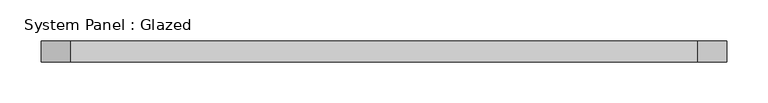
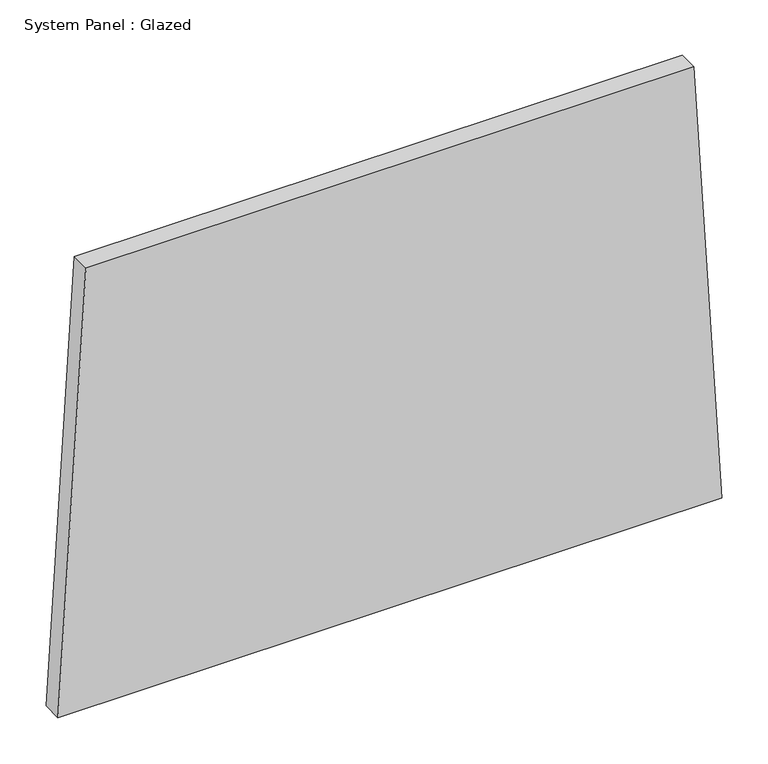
"""IFC4 building model written with IfcOpenShell, lengths in millimetres: plate geometry, System Panel : Glazed."""

import ifcopenshell
import ifcopenshell.guid

model = None  # the IFC model being written
_history = None  # IfcOwnerHistory: only IFC2X3 demands one
_inside = {}  # id of a spatial element -> (the spatial element, [elements in it])
_under = {}  # id of a project, library or spatial element -> (it, [spatial elements below it])
_declared = {}  # id of a project -> (the project, [libraries it declares])
_typed = {}  # id of a type object -> (the type object, [elements of that type])
_made_of = {}  # id of a material, layer set ... -> (it, [elements and type objects made of it])


def new_model(schema):
    """Start an empty IFC model of exactly this schema.

    Asked for "IFC4X3", IfcOpenShell would pick the latest addendum, in which some entities
    have other attributes; the version numbers below select the first issue.
    IFC2X3 requires an IfcOwnerHistory on every rooted entity: one is made here for all.
    """
    global model, _history
    if schema == "IFC4X3":
        model = ifcopenshell.file(schema_version=(4, 3, 0, 0))
    else:
        model = ifcopenshell.file(schema=schema)
    _inside.clear()
    _under.clear()
    _declared.clear()
    _typed.clear()
    _made_of.clear()
    _history = None
    if model.schema == "IFC2X3":
        org = make("IfcOrganization", Name="unknown")
        user = make(
            "IfcPersonAndOrganization",
            ThePerson=make("IfcPerson", FamilyName="unknown"),
            TheOrganization=org,
        )
        app = make(
            "IfcApplication",
            ApplicationDeveloper=org,
            Version="unknown",
            ApplicationFullName="unknown",
            ApplicationIdentifier="unknown",
        )
        _history = make(
            "IfcOwnerHistory",
            OwningUser=user,
            OwningApplication=app,
            ChangeAction="ADDED",
            CreationDate=0,
        )
    return model


def make(cls, **values):
    """One entity of the class cls with the attributes given. An attribute that is None is left unset."""
    return model.create_entity(
        cls, **{name: value for name, value in values.items() if value is not None}
    )


def rooted(cls, **values):
    """An entity with a GlobalId (a new one), such as an element, a storey or a relation."""
    return make(cls, GlobalId=ifcopenshell.guid.new(), OwnerHistory=_history, **values)


def si_unit(unit_type, name, prefix=None):
    """IfcSIUnit, for example si_unit("LENGTHUNIT", "METRE", prefix="MILLI")."""
    return make("IfcSIUnit", UnitType=unit_type, Prefix=prefix, Name=name)


def assignment(units):
    """IfcUnitAssignment: the units of a project."""
    return None if units is None else make("IfcUnitAssignment", Units=units)


def point(xyz):
    """IfcCartesianPoint."""
    return None if xyz is None else make("IfcCartesianPoint", Coordinates=xyz)


def direction(xyz):
    """IfcDirection."""
    return None if xyz is None else make("IfcDirection", DirectionRatios=xyz)


def frame(location, z_axis=None, x_axis=None):
    """IfcAxis2Placement3D, a coordinate frame: its origin and axes. An axis left out is left unset."""
    return make(
        "IfcAxis2Placement3D",
        Location=point(location),
        Axis=direction(z_axis),
        RefDirection=direction(x_axis),
    )


def origin():
    """The frame at (0, 0, 0) with its axes left unset."""
    return frame((0.0, 0.0, 0.0))


def place(relative_to, where):
    """IfcLocalPlacement: puts the frame where relative to a parent placement (None: the world)."""
    return make(
        "IfcLocalPlacement", PlacementRelTo=relative_to, RelativePlacement=where
    )


def context(
    kind, dimensions, precision=None, world=None, true_north=None, identifier=None
):
    """IfcGeometricRepresentationContext, for example the 3D "Model" context."""
    return make(
        "IfcGeometricRepresentationContext",
        ContextIdentifier=identifier,
        ContextType=kind,
        CoordinateSpaceDimension=dimensions,
        Precision=precision,
        WorldCoordinateSystem=world,
        TrueNorth=true_north,
    )


def project(units=None, contexts=None):
    """IfcProject with its units and contexts."""
    return rooted(
        "IfcProject",
        Name="project",
        RepresentationContexts=contexts,
        UnitsInContext=assignment(units),
    )


def spatial(cls, under=None, at=None, **own):
    """A site, building, storey or space (cls), placed at a placement, below another one or the project."""
    s = rooted(cls, ObjectPlacement=at, **own)
    if under is not None:
        _under.setdefault(under.id(), (under, []))[1].append(s)
    return s


def polyline(points):
    """IfcPolyline through the points."""
    return make("IfcPolyline", Points=[point(p) for p in points])


def outline(outer, holes=None, kind="AREA"):
    """IfcArbitraryClosedProfileDef: a profile drawn as a closed curve; with holes, ...WithVoids."""
    if holes is None:
        return make("IfcArbitraryClosedProfileDef", ProfileType=kind, OuterCurve=outer)
    return make(
        "IfcArbitraryProfileDefWithVoids",
        ProfileType=kind,
        OuterCurve=outer,
        InnerCurves=holes,
    )


def extrude(swept, where, along, depth):
    """IfcExtrudedAreaSolid: the profile swept, set in the frame where, extruded along a direction by depth."""
    return make(
        "IfcExtrudedAreaSolid",
        SweptArea=swept,
        Position=where,
        ExtrudedDirection=direction(along),
        Depth=depth,
    )


def shape(context_of_items, identifier, shape_type, items):
    """IfcShapeRepresentation: the items that make up one representation, for example the "Body"."""
    return make(
        "IfcShapeRepresentation",
        ContextOfItems=context_of_items,
        RepresentationIdentifier=identifier,
        RepresentationType=shape_type,
        Items=items,
    )


def source(mapping_origin, context_of_items, identifier, shape_type, items):
    """IfcRepresentationMap: a shape defined once, which mapped items show again and again."""
    return make(
        "IfcRepresentationMap",
        MappingOrigin=mapping_origin,
        MappedRepresentation=shape(context_of_items, identifier, shape_type, items),
    )


def transform(
    local_origin,
    x_axis=None,
    y_axis=None,
    z_axis=None,
    scale=None,
    scale2=None,
    scale3=None,
    uniform=True,
):
    """IfcCartesianTransformationOperator3D, or its non-uniform kind. x_axis, y_axis, z_axis: its Axis1, 2, 3."""
    if uniform:
        return make(
            "IfcCartesianTransformationOperator3D",
            Axis1=direction(x_axis),
            Axis2=direction(y_axis),
            LocalOrigin=point(local_origin),
            Scale=scale,
            Axis3=direction(z_axis),
        )
    return make(
        "IfcCartesianTransformationOperator3DnonUniform",
        Axis1=direction(x_axis),
        Axis2=direction(y_axis),
        LocalOrigin=point(local_origin),
        Scale=scale,
        Axis3=direction(z_axis),
        Scale2=scale2,
        Scale3=scale3,
    )


def mapped(mapping_source, mapping_target):
    """IfcMappedItem: shows the shape of a source again, moved by a transform."""
    return make(
        "IfcMappedItem", MappingSource=mapping_source, MappingTarget=mapping_target
    )


def made_of(thing, what):
    """Note that an element or type object is made of a material, layer set ...; save() writes the relation."""
    if what is not None:
        _made_of.setdefault(what.id(), (what, []))[1].append(thing)
    return thing


def element(
    cls,
    number,
    at=None,
    inside=None,
    cuts=None,
    type_object=None,
    material=None,
    context=None,
    identifier="Body",
    shape_type=None,
    held_by="IfcProductDefinitionShape",
    body=None,
    shapes=None,
    **own,
):
    """One element of the class cls, such as IfcWall. Its Tag is "e" and its number.

    at: its placement. inside: the storey or other place that contains it. cuts: it is an
    opening in that element (IfcRelVoidsElement). A single representation is given by context,
    identifier, shape_type and body (its items); several are given by shapes. held_by: the class
    of the entity that holds the representations. save() writes the other relations.
    """
    e = rooted(cls, Tag="e%d" % number, ObjectPlacement=at, **own)
    if body is not None:
        shapes = [shape(context, identifier, shape_type, body)]
    if shapes is not None:
        e.Representation = make(held_by, Representations=shapes)
    if inside is not None:
        _inside.setdefault(inside.id(), (inside, []))[1].append(e)
    if cuts is not None:
        rooted(
            "IfcRelVoidsElement", RelatingBuildingElement=cuts, RelatedOpeningElement=e
        )
    if type_object is not None:
        _typed.setdefault(type_object.id(), (type_object, []))[1].append(e)
    return made_of(e, material)


def aggregate(whole, parts):
    """IfcRelAggregates: a whole, such as a stair, and the parts it consists of."""
    return rooted("IfcRelAggregates", RelatingObject=whole, RelatedObjects=parts)


def save(model, path):
    """Write the relations noted so far, then the file.

    IfcRelAggregates (storeys below a building ...), IfcRelContainedInSpatialStructure (elements
    in a storey), IfcRelDefinesByType, IfcRelAssociatesMaterial and IfcRelDeclares: one each for
    every whole, place, type object, material and project.
    """
    for whole, parts in _under.values():
        aggregate(whole, parts)
    for where, things in _inside.values():
        rooted(
            "IfcRelContainedInSpatialStructure",
            RelatedElements=things,
            RelatingStructure=where,
        )
    for kind, things in _typed.values():
        rooted("IfcRelDefinesByType", RelatedObjects=things, RelatingType=kind)
    for what, things in _made_of.values():
        rooted("IfcRelAssociatesMaterial", RelatedObjects=things, RelatingMaterial=what)
    for by, libraries in _declared.values():
        rooted("IfcRelDeclares", RelatingContext=by, RelatedDefinitions=libraries)
    model.write(path)


def system_panel_glazed_553bac9a(model_context):
    return source(origin(), model_context, "Body", "SweptSolid", [
        extrude(outline(polyline([(0.0, -415.8764224), (0.0, 415.8764224), (583.1054808, 380.8870001), (583.1054808, -380.8870001), (0.0, -415.8764224)])), frame((0.0, 19.05, 0.0), z_axis=(0.0, 1.0, 0.0), x_axis=(0.0, 0.0, 1.0)), (0.0, 0.0, 1.0), 25.4),
    ])


if __name__ == "__main__":
    model = new_model("IFC4")
    model_context = context("Model", 3, world=origin())
    ifc_project = project(units=[si_unit("LENGTHUNIT", "METRE", prefix="MILLI")], contexts=[model_context])
    site = spatial("IfcSite", under=ifc_project)
    building = spatial("IfcBuilding", under=site)
    placement = place(None, origin())
    system_panel_glazed_shape = system_panel_glazed_553bac9a(model_context)
    element("IfcPlate", 1, ObjectType="System Panel : Glazed", at=placement, inside=building, context=model_context, shape_type="MappedRepresentation", body=[
        mapped(system_panel_glazed_shape, transform((0.0, 0.0, 0.0), x_axis=(1.0, 0.0, 0.0), y_axis=(0.0, 1.0, 0.0), z_axis=(0.0, 0.0, 1.0))),
    ])
    save(model, "model.ifc")
